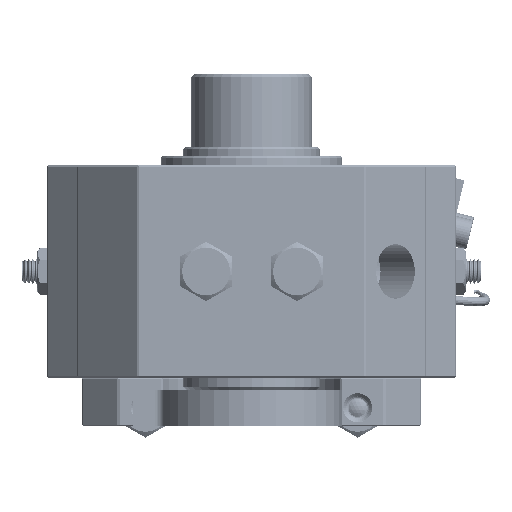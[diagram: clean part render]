
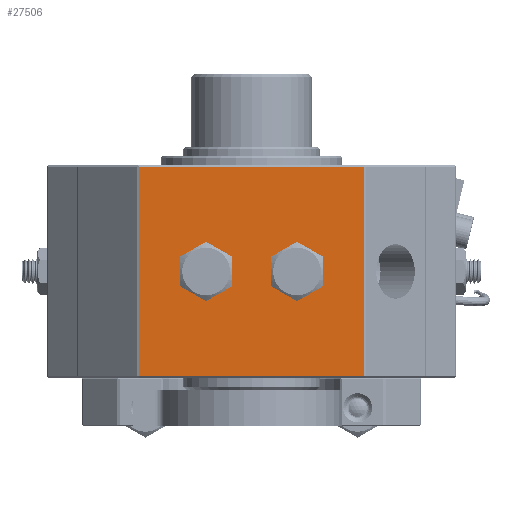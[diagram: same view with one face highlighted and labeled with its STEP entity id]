
A CAD part, left-side view. The second image highlights one B-rep face of the part: STEP entity #27506.
In plain terms, the highlighted planar face has unit normal (-1, 0, 0).
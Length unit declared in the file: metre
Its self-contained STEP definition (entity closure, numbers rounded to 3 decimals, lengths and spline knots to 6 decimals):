
#27445=CARTESIAN_POINT('',(-0.0525,-0.0675,-0.0275));
#27446=DIRECTION('',(1.0,0.0,0.0));
#27447=DIRECTION('',(0.0,0.0,-1.0));
#27448=AXIS2_PLACEMENT_3D('',#27445,#27446,#27447);
#27449=PLANE('',#27448);
#27450=CARTESIAN_POINT('',(-0.0525,0.037,-0.097));
#27451=VERTEX_POINT('',#27450);
#27452=CARTESIAN_POINT('',(-0.0525,0.037,-0.028));
#27453=VERTEX_POINT('',#27452);
#27454=CARTESIAN_POINT('',(-0.0525,0.037,-0.097));
#27455=DIRECTION('',(0.0,0.0,1.0));
#27456=VECTOR('',#27455,0.069);
#27457=LINE('',#27454,#27456);
#27458=EDGE_CURVE('',#27451,#27453,#27457,.T.);
#27459=ORIENTED_EDGE('',*,*,#27458,.F.);
#27460=CARTESIAN_POINT('',(-0.0525,-0.037,-0.097));
#27461=VERTEX_POINT('',#27460);
#27462=CARTESIAN_POINT('',(-0.0525,-0.037,-0.097));
#27463=DIRECTION('',(0.0,1.0,0.0));
#27464=VECTOR('',#27463,0.074);
#27465=LINE('',#27462,#27464);
#27466=EDGE_CURVE('',#27461,#27451,#27465,.T.);
#27467=ORIENTED_EDGE('',*,*,#27466,.F.);
#27468=CARTESIAN_POINT('',(-0.0525,-0.037,-0.028));
#27469=VERTEX_POINT('',#27468);
#27470=CARTESIAN_POINT('',(-0.0525,-0.037,-0.028));
#27471=DIRECTION('',(0.0,0.0,-1.0));
#27472=VECTOR('',#27471,0.069);
#27473=LINE('',#27470,#27472);
#27474=EDGE_CURVE('',#27469,#27461,#27473,.T.);
#27475=ORIENTED_EDGE('',*,*,#27474,.F.);
#27476=CARTESIAN_POINT('',(-0.0525,0.037,-0.028));
#27477=DIRECTION('',(0.0,-1.0,0.0));
#27478=VECTOR('',#27477,0.074);
#27479=LINE('',#27476,#27478);
#27480=EDGE_CURVE('',#27453,#27469,#27479,.T.);
#27481=ORIENTED_EDGE('',*,*,#27480,.F.);
#27482=EDGE_LOOP('',(#27459,#27467,#27475,#27481));
#27483=FACE_OUTER_BOUND('',#27482,.T.);
#27484=CARTESIAN_POINT('',(-0.0525,-0.01,-0.0625));
#27485=VERTEX_POINT('',#27484);
#27486=CARTESIAN_POINT('',(-0.0525,-0.015,-0.0625));
#27487=DIRECTION('',(1.0,0.0,0.0));
#27488=DIRECTION('',(0.0,1.0,0.0));
#27489=AXIS2_PLACEMENT_3D('',#27486,#27487,#27488);
#27490=CIRCLE('',#27489,0.005);
#27491=EDGE_CURVE('',#27485,#27485,#27490,.T.);
#27492=ORIENTED_EDGE('',*,*,#27491,.T.);
#27493=EDGE_LOOP('',(#27492));
#27494=FACE_BOUND('',#27493,.T.);
#27495=CARTESIAN_POINT('',(-0.0525,0.02,-0.0625));
#27496=VERTEX_POINT('',#27495);
#27497=CARTESIAN_POINT('',(-0.0525,0.015,-0.0625));
#27498=DIRECTION('',(1.0,0.0,0.0));
#27499=DIRECTION('',(0.0,1.0,0.0));
#27500=AXIS2_PLACEMENT_3D('',#27497,#27498,#27499);
#27501=CIRCLE('',#27500,0.005);
#27502=EDGE_CURVE('',#27496,#27496,#27501,.T.);
#27503=ORIENTED_EDGE('',*,*,#27502,.T.);
#27504=EDGE_LOOP('',(#27503));
#27505=FACE_BOUND('',#27504,.T.);
#27506=ADVANCED_FACE('',(#27483,#27494,#27505),#27449,.F.);
